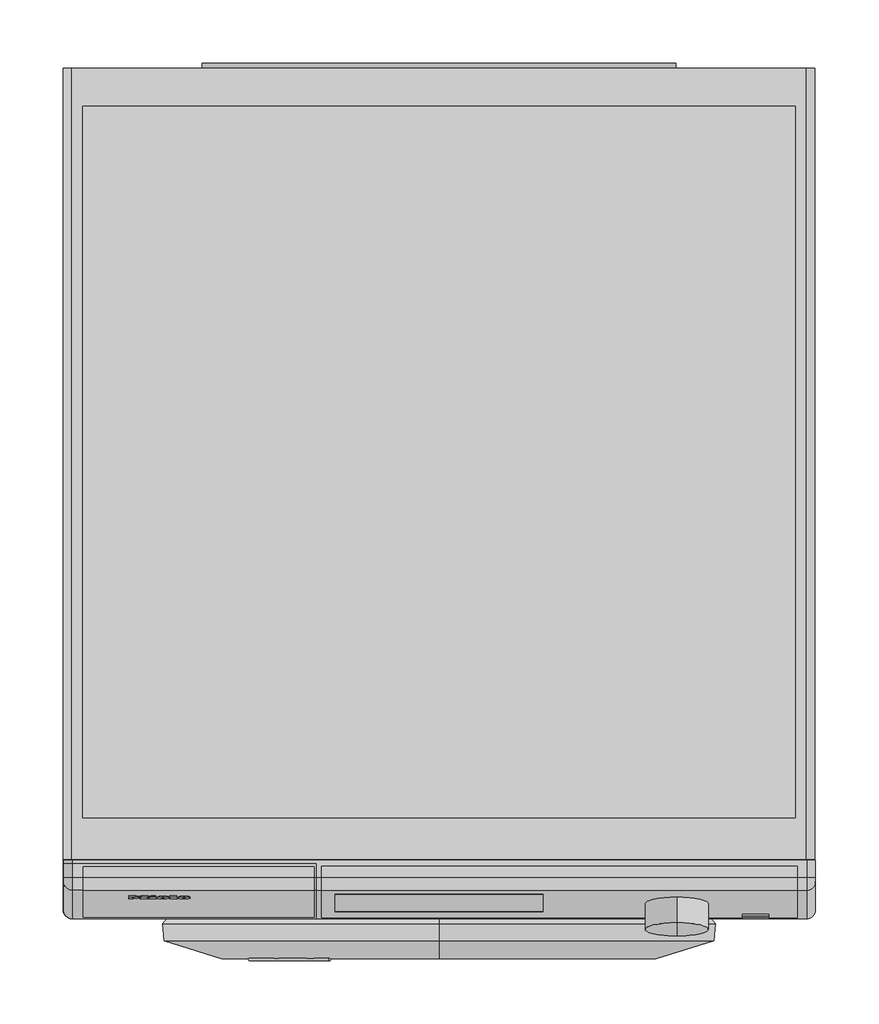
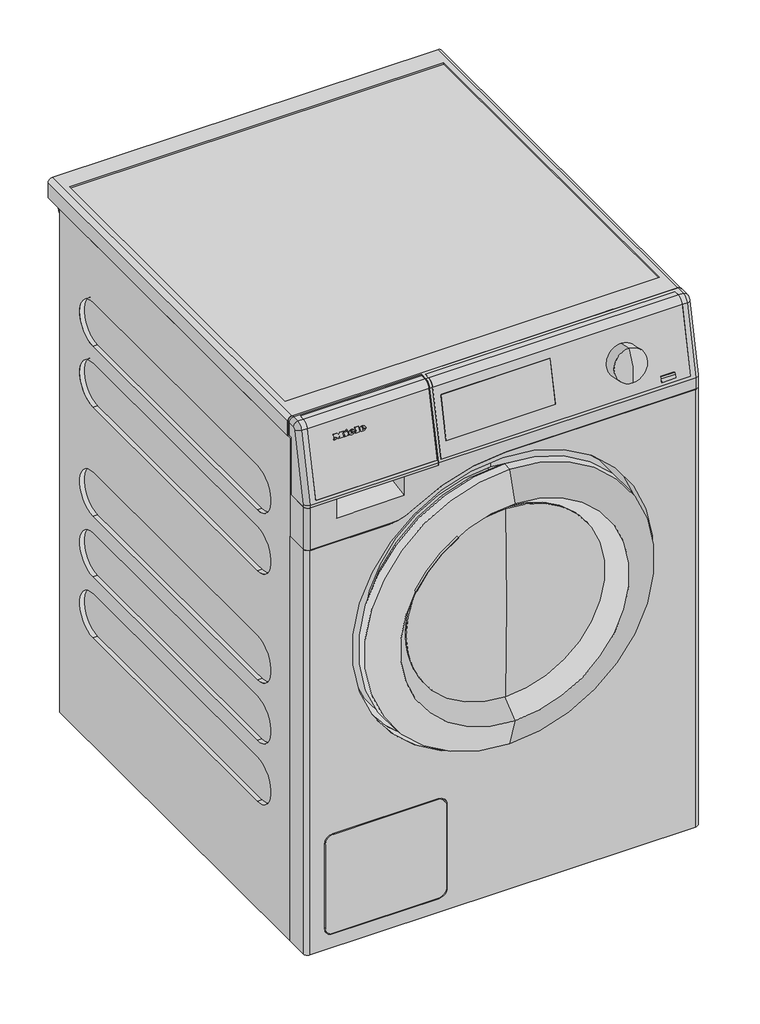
# Not in any storey: 1 proxy.
"""IFC4 building model written with IfcOpenShell, lengths in millimetres."""

from ifc_helpers import new_model, si_unit, origin, place, context, project, spatial, transform, mapped, element, save
from components import specialty_equipment_2d1db38d, specialty_equipment_33895398, specialty_equipment_12886d61

model = new_model("IFC4")

# Units and contexts
model_context = context("Model", 3, world=origin())
ifc_project = project(units=[si_unit("LENGTHUNIT", "METRE", prefix="MILLI")], contexts=[model_context])

# Site, building
site = spatial("IfcSite", under=ifc_project)
building = spatial("IfcBuilding", under=site)

# Proxy
placement = place(None, origin())
specialty_equipment_shape = specialty_equipment_2d1db38d(model_context)
specialty_equipment_2_shape = specialty_equipment_33895398(model_context)
specialty_equipment_3_shape = specialty_equipment_12886d61(model_context)
element("IfcBuildingElementProxy", 1, Name="11693340_GB_PWM307DP_LWCC : 51307172_GB_11693340_PWM307DP_LWCC", ObjectType="11693340_GB_PWM307DP_LWCC : 51307172_GB_11693340_PWM307DP_LWCC", at=placement, inside=building, context=model_context, shape_type="MappedRepresentation", body=[
    mapped(specialty_equipment_shape, transform((0.0, 0.0, 0.0), x_axis=(1.0, 0.0, 0.0), y_axis=(0.0, 1.0, 0.0), z_axis=(0.0, 0.0, 1.0))),
    mapped(specialty_equipment_2_shape, transform((0.0, 0.0, 0.0), x_axis=(1.0, 0.0, 0.0), y_axis=(0.0, 1.0, 0.0), z_axis=(0.0, 0.0, 1.0))),
    mapped(specialty_equipment_3_shape, transform((0.0, 0.0, 0.0), x_axis=(1.0, 0.0, 0.0), y_axis=(0.0, 1.0, 0.0), z_axis=(0.0, 0.0, 1.0))),
])

save(model, "model.ifc")
